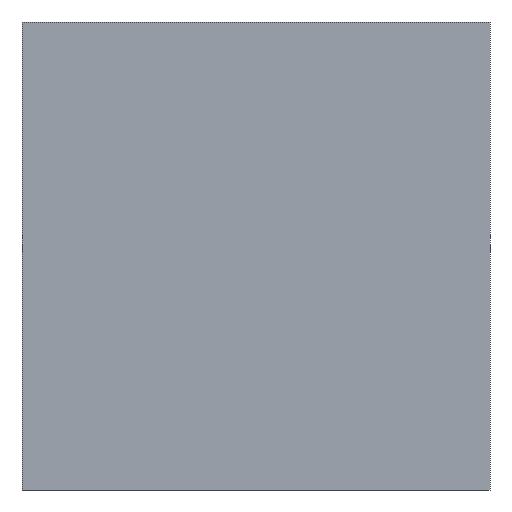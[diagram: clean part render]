
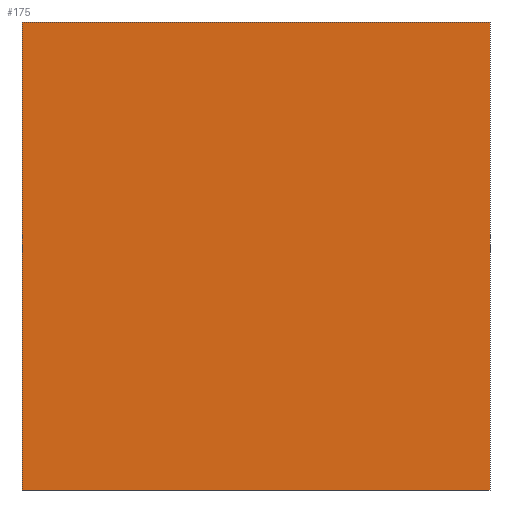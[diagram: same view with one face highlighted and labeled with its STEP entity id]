
A CAD part, left-side view. The second image highlights one B-rep face of the part: STEP entity #175.
In plain terms, the highlighted planar face has unit normal (-1, 0, 0).
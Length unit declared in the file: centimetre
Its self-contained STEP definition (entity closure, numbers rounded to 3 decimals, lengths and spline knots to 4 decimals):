
#31 = DIRECTION ( 'NONE',  ( 0., -1., 0. ) ) ;
#42 = CARTESIAN_POINT ( 'NONE',  ( 0., 1000., 0. ) ) ;
#45 = DIRECTION ( 'NONE',  ( 0., -1., 0. ) ) ;
#63 = VECTOR ( 'NONE', #390, 100. ) ;
#90 = CARTESIAN_POINT ( 'NONE',  ( 0., 0., 1000. ) ) ;
#94 = EDGE_CURVE ( 'NONE', #361, #368, #315, .T. ) ;
#96 = AXIS2_PLACEMENT_3D ( 'NONE', #459, #413, #342 ) ;
#102 = VECTOR ( 'NONE', #45, 100. ) ;
#104 = ORIENTED_EDGE ( 'NONE', *, *, #317, .T. ) ;
#111 = VERTEX_POINT ( 'NONE', #207 ) ;
#127 = FACE_OUTER_BOUND ( 'NONE', #397, .T. ) ;
#131 = CARTESIAN_POINT ( 'NONE',  ( 0., 1000., 1000. ) ) ;
#175 = ADVANCED_FACE ( 'NONE', ( #127 ), #458, .F. ) ;
#186 = LINE ( 'NONE', #226, #285 ) ;
#198 = CARTESIAN_POINT ( 'NONE',  ( 0., 0., 0. ) ) ;
#207 = CARTESIAN_POINT ( 'NONE',  ( 0., 0., 1000. ) ) ;
#226 = CARTESIAN_POINT ( 'NONE',  ( 0., 1000., 1000. ) ) ;
#234 = ORIENTED_EDGE ( 'NONE', *, *, #270, .F. ) ;
#246 = LINE ( 'NONE', #90, #63 ) ;
#270 = EDGE_CURVE ( 'NONE', #111, #368, #246, .T. ) ;
#283 = ORIENTED_EDGE ( 'NONE', *, *, #408, .F. ) ;
#285 = VECTOR ( 'NONE', #31, 100. ) ;
#286 = DIRECTION ( 'NONE',  ( 0., 0., -1. ) ) ;
#315 = LINE ( 'NONE', #389, #102 ) ;
#317 = EDGE_CURVE ( 'NONE', #466, #361, #465, .T. ) ;
#342 = DIRECTION ( 'NONE',  ( 0., 0., -1. ) ) ;
#351 = CARTESIAN_POINT ( 'NONE',  ( 0., 1000., 1000. ) ) ;
#355 = ORIENTED_EDGE ( 'NONE', *, *, #94, .T. ) ;
#361 = VERTEX_POINT ( 'NONE', #42 ) ;
#368 = VERTEX_POINT ( 'NONE', #198 ) ;
#389 = CARTESIAN_POINT ( 'NONE',  ( 0., 1000., 0. ) ) ;
#390 = DIRECTION ( 'NONE',  ( 0., 0., -1. ) ) ;
#397 = EDGE_LOOP ( 'NONE', ( #355, #234, #283, #104 ) ) ;
#408 = EDGE_CURVE ( 'NONE', #466, #111, #186, .T. ) ;
#413 = DIRECTION ( 'NONE',  ( 1., 0., 0. ) ) ;
#443 = VECTOR ( 'NONE', #286, 100. ) ;
#458 = PLANE ( 'NONE',  #96 ) ;
#459 = CARTESIAN_POINT ( 'NONE',  ( 0., 1000., 1000. ) ) ;
#465 = LINE ( 'NONE', #131, #443 ) ;
#466 = VERTEX_POINT ( 'NONE', #351 ) ;
